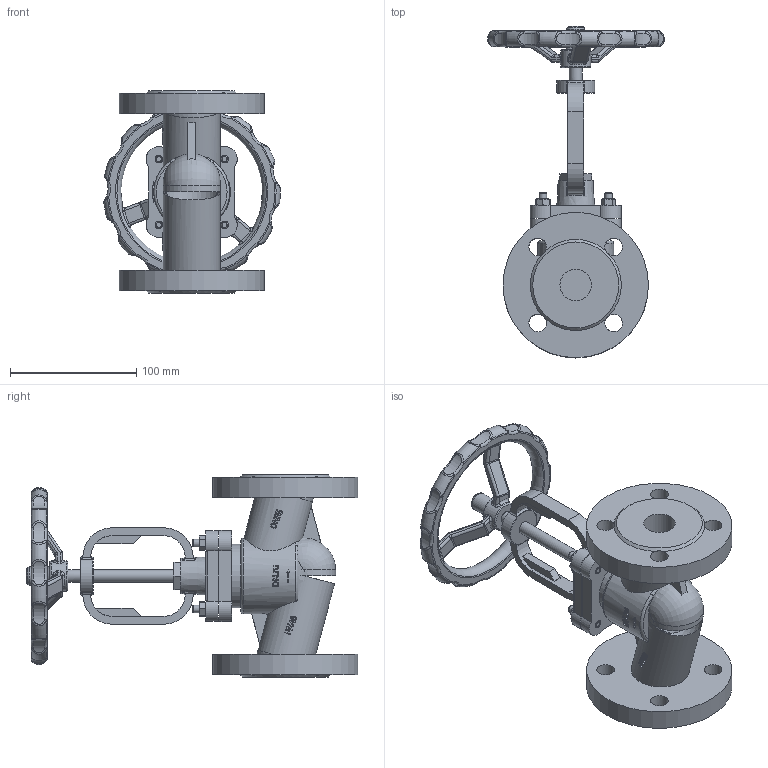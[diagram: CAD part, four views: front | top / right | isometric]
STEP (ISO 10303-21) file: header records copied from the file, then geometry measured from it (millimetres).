
FILE_DESCRIPTION(('STEP AP242'), '1');
FILE_NAME('VSO2130M-F-S 孰囡囗 玎镱痦 DN.ru 捏25 畜40', '2026-04-27T21:14:26', ('DN.ru'), (''), 'C3D Converter', 'C3D Toolkit', '');
FILE_SCHEMA(('AP242_MANAGED_MODEL_BASED_3D_ENGINEERING_MIM_LF { 1 0 10303 442 1 1 4 }'));
Length unit declared in the file: millimetre
Products named in the file (1): VSO2130M-F-S
Bounding box: 139.7 x 262.5 x 160 mm (x, y, z)
Volume: 772651 mm3; surface area: 151911.6 mm2
Topology: 1 solids, 1 shells, 897 faces, 2288 edges, 1424 vertices
Faces by surface type: plane 261, extrusion 219, cylinder 150, torus 113, bspline 70, sphere 64, cone 20
Full cylindrical faces by diameter (mm): 6 x12, 10 x2, 12.5 x1, 14 x8, 14.25 x1, 23.75 x1, 25 x2, 30 x1, 45 x2, 50 x1, 60 x1, 115 x2
Entity records: 66505 total; most frequent: CARTESIAN_POINT 39711, ORIENTED_EDGE 4398, DIRECTION 3298, EDGE_CURVE 2199, VERTEX_POINT 1417, AXIS2_PLACEMENT_3D 1207, EDGE_LOOP 1040, B_SPLINE_CURVE_WITH_KNOTS 984
